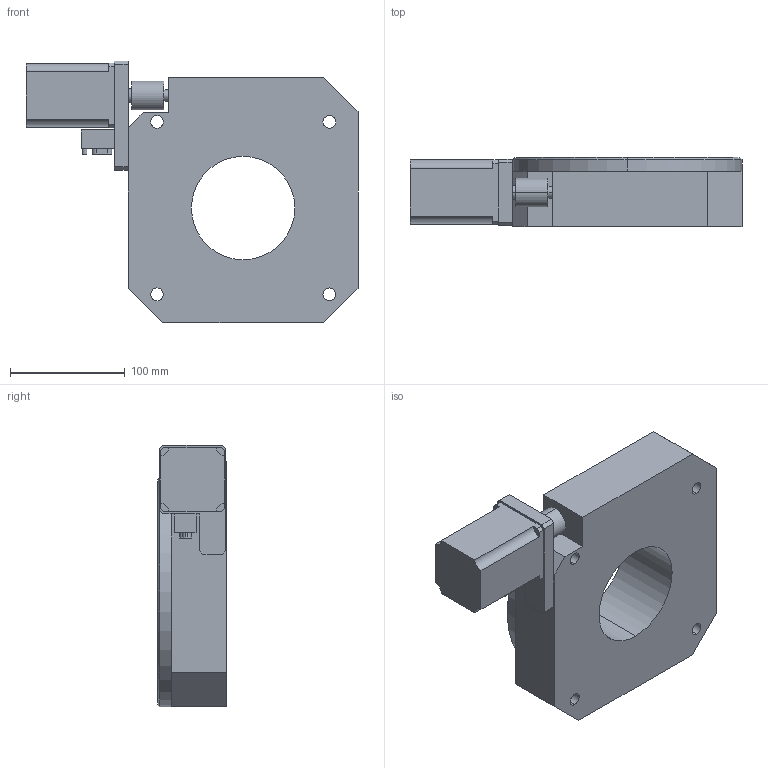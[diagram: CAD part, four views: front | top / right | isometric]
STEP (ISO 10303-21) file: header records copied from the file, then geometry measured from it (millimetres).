
FILE_DESCRIPTION((''),'2;1');
FILE_NAME('电动旋转台110-200_ASM','2016-05-13T',('田菜饺子'),(''),'CREO PARAMETRIC BY PTC INC, 2015200','CREO PARAMETRIC BY PTC INC, 2015200','');
FILE_SCHEMA(('CONFIG_CONTROL_DESIGN'));
Length unit declared in the file: millimetre
Products named in the file (1): 萇雄唅蛌怢110-200_ASM
Bounding box: 289 x 60 x 228 mm (x, y, z)
Surface area: 174892.8 mm2 (no closed solid volume)
Topology: 0 solids, 1 shells, 253 faces, 638 edges, 362 vertices
Faces by surface type: cylinder 114, cone 74, plane 65
Entity records: 7112 total; most frequent: DIRECTION 1306, CARTESIAN_POINT 1182, ORIENTED_EDGE 1132, EDGE_CURVE 566, AXIS2_PLACEMENT_3D 486, VERTEX_POINT 362, VECTOR 334, LINE 334
